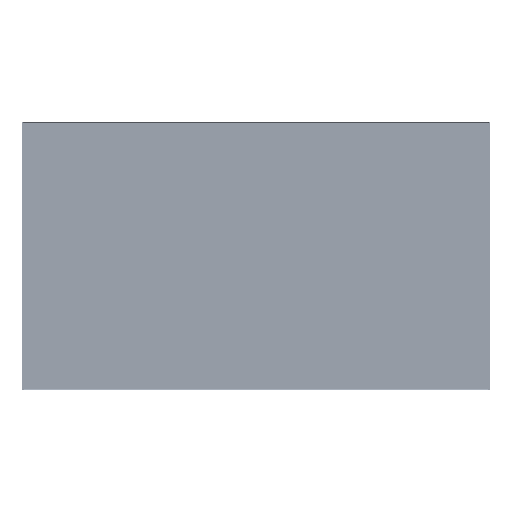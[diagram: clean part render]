
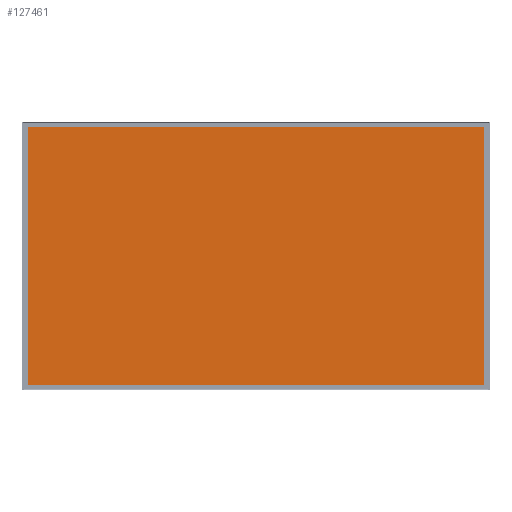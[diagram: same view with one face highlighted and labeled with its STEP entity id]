
A CAD part, top view. The second image highlights one B-rep face of the part: STEP entity #127461.
In plain terms, the highlighted planar face has unit normal (0, 0, 1).
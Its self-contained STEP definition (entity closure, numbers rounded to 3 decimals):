
#12046 = ORIENTED_EDGE ( 'NONE', *, *, #303814, .T. ) ;
#12781 = VERTEX_POINT ( 'NONE', #31905 ) ;
#13770 = EDGE_LOOP ( 'NONE', ( #245855, #51858, #12046, #117550 ) ) ;
#31905 = CARTESIAN_POINT ( 'NONE',  ( -941.3, 532.45, 1.2 ) ) ;
#36975 = LINE ( 'NONE', #194061, #159222 ) ;
#38711 = VERTEX_POINT ( 'NONE', #102265 ) ;
#44176 = DIRECTION ( 'NONE',  ( 0., 1., 0. ) ) ;
#48925 = DIRECTION ( 'NONE',  ( 0., 0., 1. ) ) ;
#51858 = ORIENTED_EDGE ( 'NONE', *, *, #152284, .T. ) ;
#57686 = PLANE ( 'NONE',  #163342 ) ;
#62844 = DIRECTION ( 'NONE',  ( 1., 0., 0. ) ) ;
#88067 = VECTOR ( 'NONE', #62844, 1000. ) ;
#92999 = VERTEX_POINT ( 'NONE', #203612 ) ;
#102265 = CARTESIAN_POINT ( 'NONE',  ( 941.3, -531.95, 1.2 ) ) ;
#117550 = ORIENTED_EDGE ( 'NONE', *, *, #239195, .T. ) ;
#127461 = ADVANCED_FACE ( 'NONE', ( #219265 ), #57686, .T. ) ;
#127509 = DIRECTION ( 'NONE',  ( 0., -1., 0. ) ) ;
#130563 = LINE ( 'NONE', #289076, #258987 ) ;
#136576 = LINE ( 'NONE', #254994, #187352 ) ;
#150054 = VERTEX_POINT ( 'NONE', #201199 ) ;
#152284 = EDGE_CURVE ( 'NONE', #38711, #92999, #136576, .T. ) ;
#159222 = VECTOR ( 'NONE', #287908, 1000. ) ;
#163342 = AXIS2_PLACEMENT_3D ( 'NONE', #165847, #48925, #197732 ) ;
#165847 = CARTESIAN_POINT ( 'NONE',  ( 0., 0., 1.2 ) ) ;
#187352 = VECTOR ( 'NONE', #44176, 1000. ) ;
#190506 = EDGE_CURVE ( 'NONE', #150054, #38711, #275112, .T. ) ;
#194061 = CARTESIAN_POINT ( 'NONE',  ( 941.3, 532.45, 1.2 ) ) ;
#197732 = DIRECTION ( 'NONE',  ( 1., 0., 0. ) ) ;
#201199 = CARTESIAN_POINT ( 'NONE',  ( -941.3, -531.95, 1.2 ) ) ;
#203612 = CARTESIAN_POINT ( 'NONE',  ( 941.3, 532.45, 1.2 ) ) ;
#219265 = FACE_OUTER_BOUND ( 'NONE', #13770, .T. ) ;
#231988 = CARTESIAN_POINT ( 'NONE',  ( -941.3, -531.95, 1.2 ) ) ;
#239195 = EDGE_CURVE ( 'NONE', #12781, #150054, #130563, .T. ) ;
#245855 = ORIENTED_EDGE ( 'NONE', *, *, #190506, .T. ) ;
#254994 = CARTESIAN_POINT ( 'NONE',  ( 941.3, -531.95, 1.2 ) ) ;
#258987 = VECTOR ( 'NONE', #127509, 1000. ) ;
#275112 = LINE ( 'NONE', #231988, #88067 ) ;
#287908 = DIRECTION ( 'NONE',  ( -1., 0., 0. ) ) ;
#289076 = CARTESIAN_POINT ( 'NONE',  ( -941.3, 532.45, 1.2 ) ) ;
#303814 = EDGE_CURVE ( 'NONE', #92999, #12781, #36975, .T. ) ;
